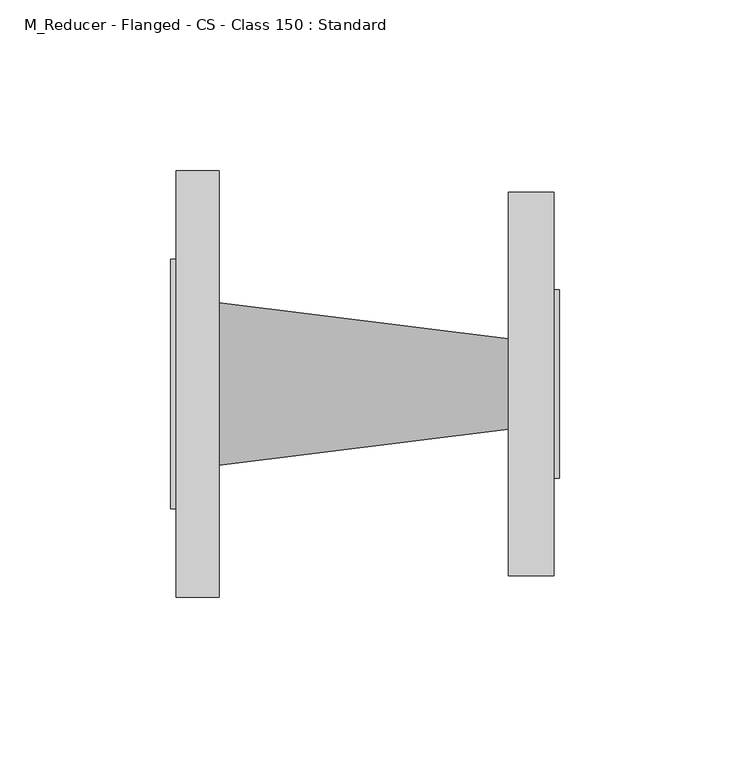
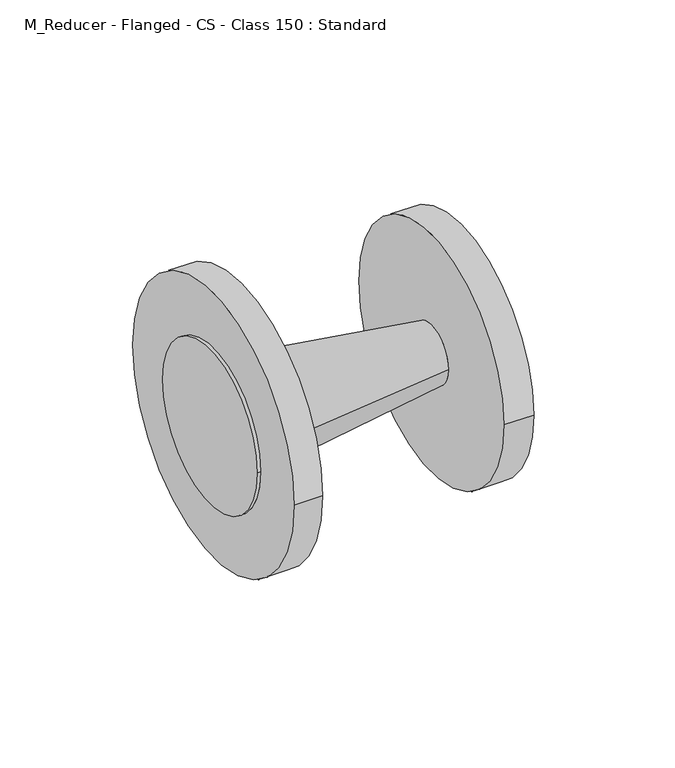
"""IFC4 building model written with IfcOpenShell, lengths in millimetres: pipe fitting geometry, M_Reducer - Flanged - CS - Class 150 : Standard."""

from ifc_helpers import new_model, si_unit, frame, origin, place, context, project, spatial, polyline, circle_curve, source, transform, mapped, element, save
from ifc_brep_helpers import plane_surface, cylinder_surface, revolved_surface, advanced_brep


def m_reducer_flanged_cs_class_150_standard_83138b42(model_context):
    return source(origin(), model_context, "Body", "AdvancedBrep", [
        advanced_brep(
        [(14.2875, 62.5, 0.0), (14.2875, -62.5, 0.0), (14.2875, -23.8, 0.0), (14.2875, 23.8, 0.0), (1.5875, 62.5, 0.0), (1.5875, -62.5, 0.0), (1.5875, 36.5, 0.0), (1.5875, -36.5, 0.0), (99.0109375, 13.2558594, 0.0), (99.0109375, -13.2558594, 0.0), (112.4125, 56.1554688, 0.0), (112.4125, -56.1554687, 0.0), (112.4125, -27.5976562, 0.0), (112.4125, 27.5976563, 0.0), (99.0109375, 56.1554688, 0.0), (99.0109375, -56.1554687, 0.0), (0.0, 36.5, 0.0), (0.0, -36.5, 0.0), (114.0, 27.5976563, 0.0), (114.0, -27.5976562, 0.0)],
        [
            (0, 1, circle_curve(frame((14.2875, 0.0, 0.0), z_axis=(1.0, 0.0, 0.0), x_axis=(0.0, -1.0, 0.0)), 62.5)),
            (1, 0, circle_curve(frame((14.2875, 0.0, 0.0), z_axis=(1.0, 0.0, 0.0), x_axis=(0.0, -1.0, 0.0)), 62.5)),
            (2, 3, circle_curve(frame((14.2875, 0.0, 0.0), z_axis=(-1.0, 0.0, 0.0), x_axis=(0.0, -1.0, 0.0)), 23.8)),
            (3, 2, circle_curve(frame((14.2875, 0.0, 0.0), z_axis=(-1.0, 0.0, 0.0), x_axis=(0.0, 1.0, 0.0)), 23.8)),
            (4, 5, circle_curve(frame((1.5875, 0.0, 0.0), z_axis=(-1.0, 0.0, 0.0), x_axis=(0.0, -1.0, 0.0)), 62.5)),
            (5, 4, circle_curve(frame((1.5875, 0.0, 0.0), z_axis=(-1.0, 0.0, 0.0), x_axis=(0.0, -1.0, 0.0)), 62.5)),
            (6, 7, circle_curve(frame((1.5875, 0.0, 0.0), z_axis=(1.0, 0.0, 0.0), x_axis=(0.0, -1.0, 0.0)), 36.5)),
            (7, 6, circle_curve(frame((1.5875, 0.0, 0.0), z_axis=(1.0, 0.0, 0.0), x_axis=(0.0, -1.0, 0.0)), 36.5)),
            (1, 5),
            (4, 0),
            (3, 8),
            (8, 9, circle_curve(frame((99.0109375, 0.0, 0.0), z_axis=(-1.0, 0.0, 0.0), x_axis=(0.0, 1.0, 0.0)), 13.2558594)),
            (9, 2),
            (9, 8, circle_curve(frame((99.0109375, 0.0, 0.0), z_axis=(-1.0, 0.0, 0.0), x_axis=(0.0, -1.0, 0.0)), 13.2558594)),
            (10, 11, circle_curve(frame((112.4125, 0.0, 0.0), z_axis=(1.0, 0.0, 0.0), x_axis=(0.0, -1.0, 0.0)), 56.1554687)),
            (11, 10, circle_curve(frame((112.4125, 0.0, 0.0), z_axis=(1.0, 0.0, 0.0), x_axis=(0.0, -1.0, 0.0)), 56.1554687)),
            (12, 13, circle_curve(frame((112.4125, 0.0, 0.0), z_axis=(-1.0, 0.0, 0.0), x_axis=(0.0, -1.0, 0.0)), 27.5976563)),
            (13, 12, circle_curve(frame((112.4125, 0.0, 0.0), z_axis=(-1.0, 0.0, 0.0), x_axis=(0.0, -1.0, 0.0)), 27.5976563)),
            (14, 15, circle_curve(frame((99.0109375, 0.0, 0.0), z_axis=(-1.0, 0.0, 0.0), x_axis=(0.0, -1.0, 0.0)), 56.1554687)),
            (15, 14, circle_curve(frame((99.0109375, 0.0, 0.0), z_axis=(-1.0, 0.0, 0.0), x_axis=(0.0, -1.0, 0.0)), 56.1554687)),
            (11, 15),
            (14, 10),
            (16, 17, circle_curve(frame((0.0, 0.0, 0.0), z_axis=(-1.0, 0.0, 0.0), x_axis=(0.0, -1.0, 0.0)), 36.5)),
            (17, 16, circle_curve(frame((0.0, 0.0, 0.0), z_axis=(-1.0, 0.0, 0.0), x_axis=(0.0, -1.0, 0.0)), 36.5)),
            (16, 6),
            (7, 17),
            (18, 19, circle_curve(frame((114.0, 0.0, 0.0), z_axis=(1.0, 0.0, 0.0), x_axis=(0.0, -1.0, 0.0)), 27.5976563)),
            (19, 18, circle_curve(frame((114.0, 0.0, 0.0), z_axis=(1.0, 0.0, 0.0), x_axis=(0.0, -1.0, 0.0)), 27.5976563)),
            (19, 12),
            (13, 18),
        ],
        [
            plane_surface(frame((14.2875, -62.5, 0.0), z_axis=(1.0, 0.0, 0.0), x_axis=(0.0, 0.0, 1.0))),
            plane_surface(frame((1.5875, -62.5, 0.0), z_axis=(-1.0, 0.0, 0.0), x_axis=(0.0, 0.0, -1.0))),
            cylinder_surface(frame((1.5875, 0.0, 0.0), z_axis=(1.0, 0.0, 0.0), x_axis=(0.0, -1.0, 0.0)), 62.5),
            revolved_surface(polyline([(99.0109375, -13.255859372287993, 0.0), (14.287499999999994, -23.8, 0.0)]), (205.5233611, 0.0, 0.0), (-1.0, 0.0, 0.0)),
            revolved_surface(polyline([(99.0109375, 13.255859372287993, 0.0), (14.287499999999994, 23.8, 0.0)]), (205.5233611, 0.0, 0.0), (-1.0, 0.0, 0.0)),
            plane_surface(frame((112.4125, -56.1554687, 0.0), z_axis=(1.0, 0.0, 0.0), x_axis=(0.0, 0.0, 1.0))),
            plane_surface(frame((99.0109375, -56.1554687, 0.0), z_axis=(-1.0, 0.0, 0.0), x_axis=(0.0, 0.0, -1.0))),
            cylinder_surface(frame((99.0109375, 0.0, 0.0), z_axis=(1.0, 0.0, 0.0), x_axis=(0.0, -1.0, 0.0)), 56.1554687),
            plane_surface(frame((0.0, -36.5, 0.0), z_axis=(-1.0, 0.0, 0.0), x_axis=(0.0, 0.0, -1.0))),
            cylinder_surface(frame((0.0, 0.0, 0.0), z_axis=(1.0, 0.0, 0.0), x_axis=(0.0, -1.0, 0.0)), 36.5),
            plane_surface(frame((114.0, -27.5976562, 0.0), z_axis=(1.0, 0.0, 0.0), x_axis=(0.0, 0.0, 1.0))),
            cylinder_surface(frame((112.4125, 0.0, 0.0), z_axis=(1.0, 0.0, 0.0), x_axis=(0.0, -1.0, 0.0)), 27.5976563),
        ],
        [
            (0, [[1, 2], [3, 4]]),
            (1, [[5, 6], [7, 8]]),
            (2, [[9, -5, 10, -2]]),
            (2, [[-10, -6, -9, -1]]),
            (3, [[-4, 11, 12, 13]]),
            (4, [[14, -11, -3, -13]]),
            (5, [[15, 16], [17, 18]]),
            (6, [[19, 20], [-14, -12]]),
            (7, [[21, -19, 22, -16]]),
            (7, [[-22, -20, -21, -15]]),
            (8, [[23, 24]]),
            (9, [[25, -8, 26, -23]]),
            (9, [[-26, -7, -25, -24]]),
            (10, [[27, 28]]),
            (11, [[29, -18, 30, -28]]),
            (11, [[-30, -17, -29, -27]]),
        ],
    ),
    ])


if __name__ == "__main__":
    model = new_model("IFC4")
    model_context = context("Model", 3, world=origin())
    ifc_project = project(units=[si_unit("LENGTHUNIT", "METRE", prefix="MILLI")], contexts=[model_context])
    site = spatial("IfcSite", under=ifc_project)
    building = spatial("IfcBuilding", under=site)
    placement = place(None, origin())
    m_reducer_flanged_cs_class_150_standard_shape = m_reducer_flanged_cs_class_150_standard_83138b42(model_context)
    element("IfcPipeFitting", 1, ObjectType="M_Reducer - Flanged - CS - Class 150 : Standard", at=placement, inside=building, context=model_context, shape_type="MappedRepresentation", body=[
        mapped(m_reducer_flanged_cs_class_150_standard_shape, transform((0.0, 0.0, 0.0), x_axis=(1.0, 0.0, 0.0), y_axis=(0.0, 1.0, 0.0), z_axis=(0.0, 0.0, 1.0))),
    ])
    save(model, "model.ifc")
